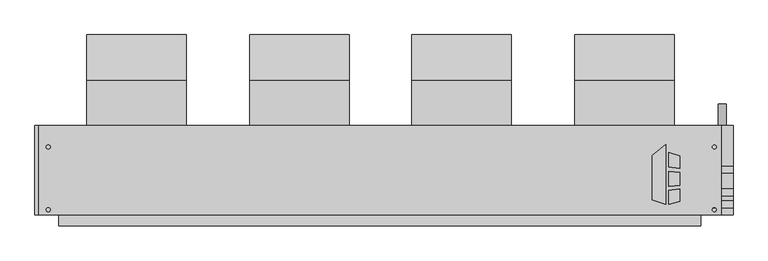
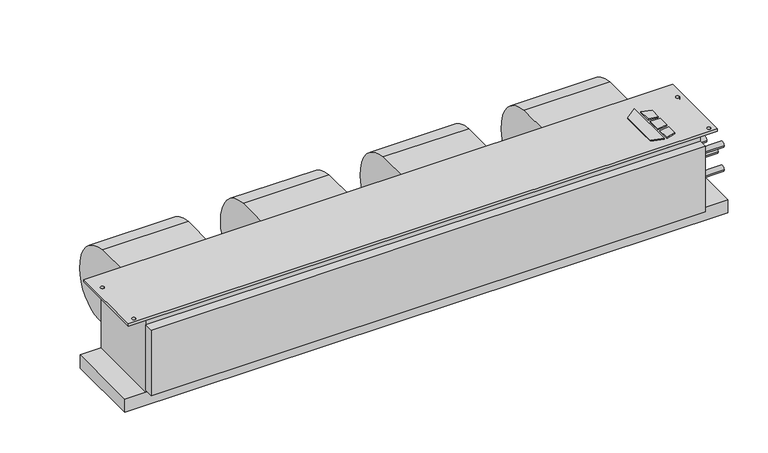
"""IFC4 building model written with IfcOpenShell, lengths in millimetres: proxy geometry, Concealed_Horizontal_Fan_Coil_Unit_-_CHY_-_IEC_-_4-Pipe_RH_2022 : Size 12 - 277v/60Hz/1Ph - 4/1 Coil."""

from ifc_helpers import new_model, si_unit, point, frame, frame_2d, origin, origin_with_axes, place, context, project, spatial, polyline, circle_curve, trimmed, segment, composite_curve, outline, extrude, source, transform, mapped, element, save


def mechanical_equipment_d07abc6c(model_context):
    return source(origin(), model_context, "Body", "SweptSolid", [
        extrude(outline(polyline([(798.2019761, -202.5703476), (830.7602728, -177.1330184), (830.7602728, -319.0875), (798.2019761, -308.8679201), (798.2019761, -202.5703476)])), origin_with_axes(), (0.0, 0.0, 1.0), 3.175),
        extrude(outline(polyline([(837.5186058, -230.442352), (837.5186058, -195.9624379), (863.6, -204.1490115), (863.6, -233.6447446), (837.5186058, -230.442352)])), origin_with_axes(), (0.0, 0.0, 1.0), 3.175),
        extrude(outline(polyline([(863.6, -312.0990115), (837.5186058, -319.0875), (837.5186058, -285.8661996), (863.6, -282.3243564), (863.6, -312.0990115)])), origin_with_axes(), (0.0, 0.0, 1.0), 3.175),
        extrude(outline(polyline([(863.6, -242.7263277), (863.6, -273.976483), (837.5186058, -276.717748), (837.5186058, -240.8600378), (863.6, -242.7263277)])), origin_with_axes(), (0.0, 0.0, 1.0), 3.175),
        extrude(outline(composite_curve([segment(trimmed(circle_curve(frame_2d((-33.198831, -136.0299844)), 117.3559541), [point((-23.8125, -19.05))], [point((84.1375, -138.176))], False, "CARTESIAN"), True, "CONTINUOUS"), segment(trimmed(circle_curve(frame_2d((-11.5977337, -136.4250563)), 95.7512443), [point((84.1375, -138.176))], [point((-23.8125, -231.394))], False, "CARTESIAN"), True, "CONTINUOUS"), segment(trimmed(circle_curve(frame_2d((-11.6288131, -136.6666968)), 95.5076133), [point((-23.8125, -231.394))], [point((-107.1245, -138.176))], False, "CARTESIAN"), True, "CONTINUOUS"), segment(trimmed(circle_curve(frame_2d((-126.2059828, -138.4775816)), 19.0838659), [point((-107.1245, -138.176))], [point((-119.3963373, -120.65))], True, "CARTESIAN"), True, "CONTINUOUS"), segment(polyline([(-119.3963373, -120.65), (-131.7625, -120.65), (-131.7625, -19.05), (-23.8125, -19.05)]), True, "CONTINUOUS")], self_intersect=False)), frame((615.188, 0.0, 0.0), z_axis=(1.0, 0.0, 0.0), x_axis=(0.0, 1.0, 0.0)), (0.0, 0.0, 1.0), 235.712),
        extrude(outline(composite_curve([segment(trimmed(circle_curve(frame_2d((-33.198831, -136.0299844)), 117.3559541), [point((-23.8125, -19.05))], [point((84.1375, -138.176))], False, "CARTESIAN"), True, "CONTINUOUS"), segment(trimmed(circle_curve(frame_2d((-11.5977337, -136.4250563)), 95.7512443), [point((84.1375, -138.176))], [point((-23.8125, -231.394))], False, "CARTESIAN"), True, "CONTINUOUS"), segment(trimmed(circle_curve(frame_2d((-11.6288131, -136.6666968)), 95.5076133), [point((-23.8125, -231.394))], [point((-107.1245, -138.176))], False, "CARTESIAN"), True, "CONTINUOUS"), segment(trimmed(circle_curve(frame_2d((-126.2059828, -138.4775816)), 19.0838659), [point((-107.1245, -138.176))], [point((-119.3963373, -120.65))], True, "CARTESIAN"), True, "CONTINUOUS"), segment(polyline([(-119.3963373, -120.65), (-131.7625, -120.65), (-131.7625, -19.05), (-23.8125, -19.05)]), True, "CONTINUOUS")], self_intersect=False)), frame((-543.687, 0.0, 0.0), z_axis=(1.0, 0.0, 0.0), x_axis=(0.0, 1.0, 0.0)), (0.0, 0.0, 1.0), 235.712),
        extrude(outline(composite_curve([segment(trimmed(circle_curve(frame_2d((-33.198831, -136.0299844)), 117.3559541), [point((-23.8125, -19.05))], [point((84.1375, -138.176))], False, "CARTESIAN"), True, "CONTINUOUS"), segment(trimmed(circle_curve(frame_2d((-11.5977337, -136.4250563)), 95.7512443), [point((84.1375, -138.176))], [point((-23.8125, -231.394))], False, "CARTESIAN"), True, "CONTINUOUS"), segment(trimmed(circle_curve(frame_2d((-11.6288131, -136.6666968)), 95.5076133), [point((-23.8125, -231.394))], [point((-107.1245, -138.176))], False, "CARTESIAN"), True, "CONTINUOUS"), segment(trimmed(circle_curve(frame_2d((-126.2059828, -138.4775816)), 19.0838659), [point((-107.1245, -138.176))], [point((-119.3963373, -120.65))], True, "CARTESIAN"), True, "CONTINUOUS"), segment(polyline([(-119.3963373, -120.65), (-131.7625, -120.65), (-131.7625, -19.05), (-23.8125, -19.05)]), True, "CONTINUOUS")], self_intersect=False)), frame((-156.337, 0.0, 0.0), z_axis=(1.0, 0.0, 0.0), x_axis=(0.0, 1.0, 0.0)), (0.0, 0.0, 1.0), 235.712),
        extrude(outline(composite_curve([segment(trimmed(circle_curve(frame_2d((-33.198831, -136.0299844)), 117.3559541), [point((-23.8125, -19.05))], [point((84.1375, -138.176))], False, "CARTESIAN"), True, "CONTINUOUS"), segment(trimmed(circle_curve(frame_2d((-11.5977337, -136.4250563)), 95.7512443), [point((84.1375, -138.176))], [point((-23.8125, -231.394))], False, "CARTESIAN"), True, "CONTINUOUS"), segment(trimmed(circle_curve(frame_2d((-11.6288131, -136.6666968)), 95.5076133), [point((-23.8125, -231.394))], [point((-107.1245, -138.176))], False, "CARTESIAN"), True, "CONTINUOUS"), segment(trimmed(circle_curve(frame_2d((-126.2059828, -138.4775816)), 19.0838659), [point((-107.1245, -138.176))], [point((-119.3963373, -120.65))], True, "CARTESIAN"), True, "CONTINUOUS"), segment(polyline([(-119.3963373, -120.65), (-131.7625, -120.65), (-131.7625, -19.05), (-23.8125, -19.05)]), True, "CONTINUOUS")], self_intersect=False)), frame((227.838, 0.0, 0.0), z_axis=(1.0, 0.0, 0.0), x_axis=(0.0, 1.0, 0.0)), (0.0, 0.0, 1.0), 235.712),
        extrude(outline(polyline([(962.025, -131.7625), (962.025, -344.4875), (-657.225, -344.4875), (-657.225, -131.7625), (962.025, -131.7625)]), holes=[composite_curve([segment(trimmed(circle_curve(frame_2d((-635.0, -182.5625)), 4.7625), [point((-639.7625, -182.5625))], [point((-630.2375, -182.5625))], True, "CARTESIAN"), True, "CONTINUOUS"), segment(trimmed(circle_curve(frame_2d((-635.0, -182.5625)), 4.7625), [point((-630.2375, -182.5625))], [point((-639.7625, -182.5625))], True, "CARTESIAN"), True, "CONTINUOUS")], self_intersect=False), composite_curve([segment(trimmed(circle_curve(frame_2d((-635.0, -331.7875)), 4.7625), [point((-639.7625, -331.7875))], [point((-630.2375, -331.7875))], True, "CARTESIAN"), True, "CONTINUOUS"), segment(trimmed(circle_curve(frame_2d((-635.0, -331.7875)), 4.7625), [point((-630.2375, -331.7875))], [point((-639.7625, -331.7875))], True, "CARTESIAN"), True, "CONTINUOUS")], self_intersect=False), composite_curve([segment(trimmed(circle_curve(frame_2d((946.15, -182.5625)), 4.7625), [point((941.3875, -182.5625))], [point((950.9125, -182.5625))], True, "CARTESIAN"), True, "CONTINUOUS"), segment(trimmed(circle_curve(frame_2d((946.15, -182.5625)), 4.7625), [point((950.9125, -182.5625))], [point((941.3875, -182.5625))], True, "CARTESIAN"), True, "CONTINUOUS")], self_intersect=False), composite_curve([segment(trimmed(circle_curve(frame_2d((946.15, -331.7875)), 4.7625), [point((941.3875, -331.7875))], [point((950.9125, -331.7875))], True, "CARTESIAN"), True, "CONTINUOUS"), segment(trimmed(circle_curve(frame_2d((946.15, -331.7875)), 4.7625), [point((950.9125, -331.7875))], [point((941.3875, -331.7875))], True, "CARTESIAN"), True, "CONTINUOUS")], self_intersect=False)]), frame((0.0, 0.0, -6.35), z_axis=(0.0, 0.0, 1.0), x_axis=(1.0, 0.0, 0.0)), (0.0, 0.0, 1.0), 6.35),
        extrude(outline(composite_curve([segment(trimmed(circle_curve(frame_2d((-241.3, 965.2)), 9.525), [point((-241.3, 955.675))], [point((-241.3, 974.725))], False, "CARTESIAN"), True, "CONTINUOUS"), segment(trimmed(circle_curve(frame_2d((-241.3, 965.2)), 9.525), [point((-241.3, 974.725))], [point((-241.3, 955.675))], False, "CARTESIAN"), True, "CONTINUOUS")], self_intersect=False)), frame((0.0, -131.7625, 0.0), z_axis=(0.0, 1.0, 0.0), x_axis=(0.0, 0.0, 1.0)), (0.0, 0.0, 1.0), 50.8),
        extrude(outline(polyline([(914.4, -369.8875), (-609.6, -369.8875), (-609.6, -344.4875), (914.4, -344.4875), (914.4, -369.8875)])), frame((0.0, 0.0, -209.55), z_axis=(0.0, 0.0, 1.0), x_axis=(1.0, 0.0, 0.0)), (0.0, 0.0, 1.0), 190.5),
        extrude(outline(polyline([(990.6, -131.7625), (990.6, -344.4875), (-666.75, -344.4875), (-666.75, -131.7625), (990.6, -131.7625)])), frame((0.0, 0.0, -254.0), z_axis=(0.0, 0.0, 1.0), x_axis=(1.0, 0.0, 0.0)), (0.0, 0.0, 1.0), 38.1),
        extrude(outline(composite_curve([segment(trimmed(circle_curve(frame_2d((-236.5375, -104.775)), 7.9375), [point((-244.475, -104.775))], [point((-228.6, -104.775))], False, "CARTESIAN"), True, "CONTINUOUS"), segment(trimmed(circle_curve(frame_2d((-236.5375, -104.775)), 7.9375), [point((-228.6, -104.775))], [point((-244.475, -104.775))], False, "CARTESIAN"), True, "CONTINUOUS")], self_intersect=False)), frame((914.4, 0.0, 0.0), z_axis=(1.0, 0.0, 0.0), x_axis=(0.0, 1.0, 0.0)), (0.0, 0.0, 1.0), 76.2),
        extrude(outline(composite_curve([segment(trimmed(circle_curve(frame_2d((-290.5125, -104.775)), 7.9375), [point((-298.45, -104.775))], [point((-282.575, -104.775))], False, "CARTESIAN"), True, "CONTINUOUS"), segment(trimmed(circle_curve(frame_2d((-290.5125, -104.775)), 7.9375), [point((-282.575, -104.775))], [point((-298.45, -104.775))], False, "CARTESIAN"), True, "CONTINUOUS")], self_intersect=False)), frame((914.4, 0.0, 0.0), z_axis=(1.0, 0.0, 0.0), x_axis=(0.0, 1.0, 0.0)), (0.0, 0.0, 1.0), 76.2),
        extrude(outline(composite_curve([segment(trimmed(circle_curve(frame_2d((-319.0875, -69.85)), 7.9375), [point((-327.025, -69.85))], [point((-311.15, -69.85))], False, "CARTESIAN"), True, "CONTINUOUS"), segment(trimmed(circle_curve(frame_2d((-319.0875, -69.85)), 7.9375), [point((-311.15, -69.85))], [point((-327.025, -69.85))], False, "CARTESIAN"), True, "CONTINUOUS")], self_intersect=False)), frame((914.4, 0.0, 0.0), z_axis=(1.0, 0.0, 0.0), x_axis=(0.0, 1.0, 0.0)), (0.0, 0.0, 1.0), 76.2),
        extrude(outline(composite_curve([segment(trimmed(circle_curve(frame_2d((-319.0875, -139.7)), 7.9375), [point((-327.025, -139.7))], [point((-311.15, -139.7))], False, "CARTESIAN"), True, "CONTINUOUS"), segment(trimmed(circle_curve(frame_2d((-319.0875, -139.7)), 7.9375), [point((-311.15, -139.7))], [point((-327.025, -139.7))], False, "CARTESIAN"), True, "CONTINUOUS")], self_intersect=False)), frame((914.4, 0.0, 0.0), z_axis=(1.0, 0.0, 0.0), x_axis=(0.0, 1.0, 0.0)), (0.0, 0.0, 1.0), 76.2),
        extrude(outline(polyline([(914.4, -344.4875), (-609.6, -344.4875), (-609.6, -131.7625), (914.4, -131.7625), (914.4, -344.4875)])), frame((0.0, 0.0, -215.9), z_axis=(0.0, 0.0, 1.0), x_axis=(1.0, 0.0, 0.0)), (0.0, 0.0, 1.0), 209.55),
    ])


if __name__ == "__main__":
    model = new_model("IFC4")
    model_context = context("Model", 3, world=origin())
    ifc_project = project(units=[si_unit("LENGTHUNIT", "METRE", prefix="MILLI")], contexts=[model_context])
    site = spatial("IfcSite", under=ifc_project)
    building = spatial("IfcBuilding", under=site)
    placement = place(None, origin())
    mechanical_equipment_shape = mechanical_equipment_d07abc6c(model_context)
    element("IfcBuildingElementProxy", 1, Name="Concealed_Horizontal_Fan_Coil_Unit_-_CHY_-_IEC_-_4-Pipe_RH_2022 : Size 12 - 277v/60Hz/1Ph - 4/1 Coil", ObjectType="Concealed_Horizontal_Fan_Coil_Unit_-_CHY_-_IEC_-_4-Pipe_RH_2022 : Size 12 - 277v/60Hz/1Ph - 4/1 Coil", at=placement, inside=building, context=model_context, shape_type="MappedRepresentation", body=[
        mapped(mechanical_equipment_shape, transform((0.0, 0.0, 0.0), x_axis=(1.0, 0.0, 0.0), y_axis=(0.0, 1.0, 0.0), z_axis=(0.0, 0.0, 1.0))),
    ])
    save(model, "model.ifc")
